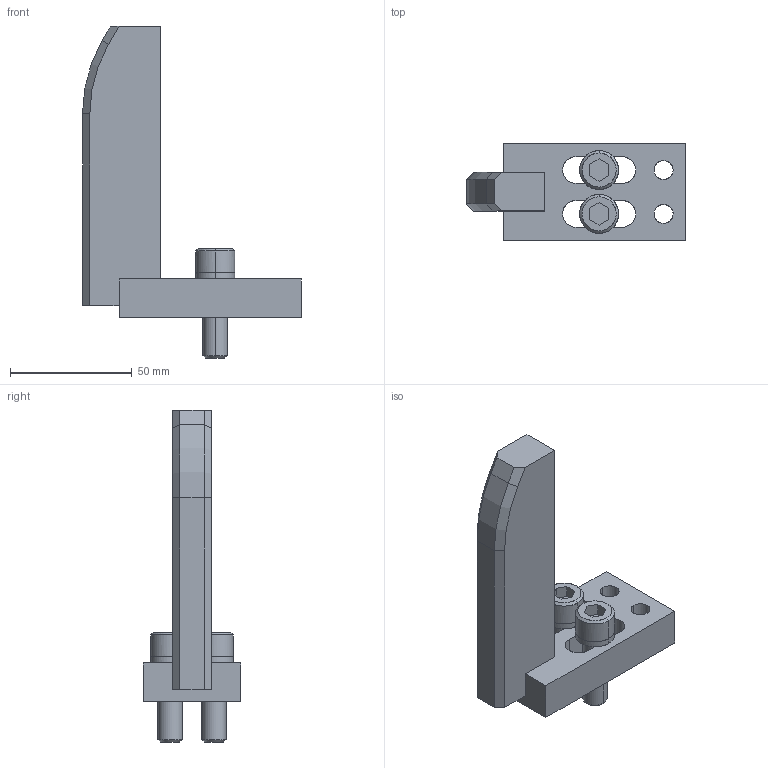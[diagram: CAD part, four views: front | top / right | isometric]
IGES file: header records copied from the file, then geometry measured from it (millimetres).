
Global section: file name: E:\UnigraphicsGraphicData\MISUMI_PRESS-PARTS\IGES\3d_ngnbc-120-20-m10_01535_r00.igs; native system: NX V5.0; preprocessor: UGS NX IGES V5.0; author: MISUMI; date: 20110105.162050; units: millimetre
Bounding box: 90 x 40 x 136.5 mm (x, y, z)
Surface area: 28440.1 mm2 (no closed solid volume)
Topology: 0 solids, 0 shells, 104 faces, 665 edges, 665 vertices
Faces by surface type: bspline 104
